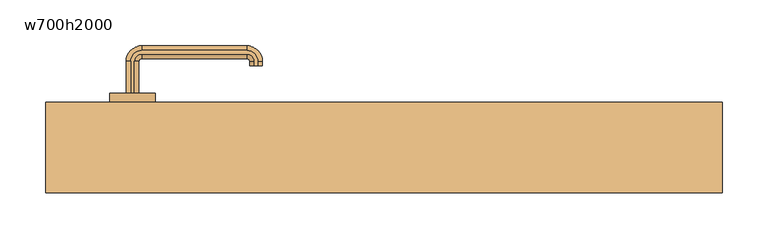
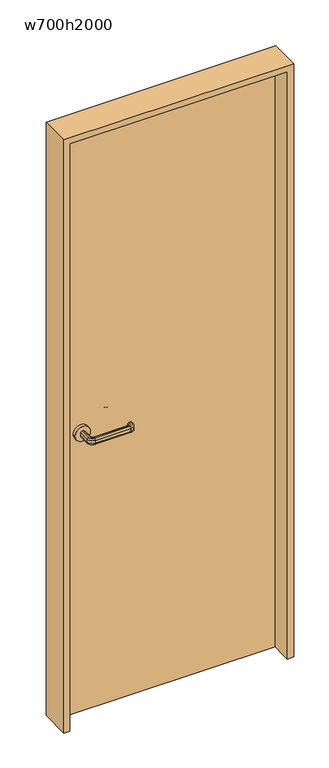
"""IFC4 building model written with IfcOpenShell, lengths in millimetres: door geometry, 片開き : w700h2000."""

from ifc_helpers import new_model, si_unit, point, frame, frame_2d, origin, origin_with_axes, place, context, project, spatial, polyline, circle_curve, ellipse_curve, trimmed, segment, composite_curve, outline, extrude, source, transform, mapped, element, save
from ifc_brep_helpers import plane_surface, cylinder_surface, revolved_surface, advanced_brep


def w700h2000_a506aba8(model_context):
    return source(origin(), model_context, "Body", "SolidModel", [
        advanced_brep(
        [(-277.0, 59.5, 960.0), (-282.0, 59.5, 955.0), (-282.0, 59.5, 945.0477623), (-277.0, 59.5, 940.0477623), (-273.0, 59.5, 940.0477623), (-268.0, 59.5, 945.0477623), (-268.0, 59.5, 955.0), (-273.0, 59.5, 960.0), (-277.0, 94.5, 960.0), (-282.0, 94.5, 955.0), (-282.0, 94.5, 945.0477623), (-277.0, 94.5, 940.0477623), (-265.0, 106.5, 940.0477623), (-150.0, 106.5, 940.0477623), (-138.0, 94.5, 940.0477623), (-138.0, 89.5, 940.0477623), (-142.0, 89.5, 940.0477623), (-142.0, 94.5, 940.0477623), (-150.0, 102.5, 940.0477623), (-265.0, 102.5, 940.0477623), (-273.0, 94.5, 940.0477623), (-268.0, 94.5, 945.0477623), (-268.0, 94.5, 955.0), (-273.0, 94.5, 960.0), (-265.0, 102.5, 960.0), (-150.0, 102.5, 960.0), (-142.0, 94.5, 960.0), (-142.0, 89.5, 960.0), (-138.0, 89.5, 960.0), (-138.0, 94.5, 960.0), (-150.0, 106.5, 960.0), (-265.0, 106.5, 960.0), (-265.0, 111.5, 955.0), (-265.0, 111.5, 945.0477623), (-265.0, 97.5, 945.0477623), (-265.0, 97.5, 955.0), (-150.0, 111.5, 955.0), (-150.0, 111.5, 945.0477623), (-150.0, 97.5, 945.0477623), (-150.0, 97.5, 955.0), (-133.0, 94.5, 955.0), (-133.0, 94.5, 945.0477623), (-147.0, 94.5, 945.0477623), (-147.0, 94.5, 955.0), (-147.0, 89.5, 955.0), (-147.0, 89.5, 945.0477623), (-133.0, 89.5, 945.0477623), (-133.0, 89.5, 955.0)],
        [
            (0, 1, circle_curve(frame((-277.0, 59.5, 955.0), z_axis=(0.0, -1.0, 0.0), x_axis=(-1.0, 0.0, 0.0)), 5.0)),
            (1, 2),
            (2, 3, circle_curve(frame((-277.0, 59.5, 945.0477623), z_axis=(0.0, -1.0, 0.0), x_axis=(-1.0, 0.0, 0.0)), 5.0)),
            (3, 4),
            (4, 5, circle_curve(frame((-273.0, 59.5, 945.0477623), z_axis=(0.0, -1.0, 0.0), x_axis=(-1.0, 0.0, 0.0)), 5.0)),
            (5, 6),
            (6, 7, circle_curve(frame((-273.0, 59.5, 955.0), z_axis=(0.0, -1.0, 0.0), x_axis=(-1.0, 0.0, 0.0)), 5.0)),
            (7, 0),
            (0, 8),
            (8, 9, circle_curve(frame((-277.0, 94.5, 955.0), z_axis=(0.0, -1.0, 0.0), x_axis=(-1.0, 0.0, 0.0)), 5.0)),
            (9, 1),
            (9, 10),
            (10, 2),
            (10, 11, circle_curve(frame((-277.0, 94.5, 945.0477623), z_axis=(0.0, -1.0, 0.0), x_axis=(-1.0, 0.0, 0.0)), 5.0)),
            (11, 3),
            (11, 12, circle_curve(frame((-265.0, 94.5, 940.0477623), z_axis=(0.0, 0.0, -1.0), x_axis=(-1.0, 0.0, 0.0)), 12.0)),
            (12, 13),
            (13, 14, circle_curve(frame((-150.0, 94.5, 940.0477623), z_axis=(0.0, 0.0, -1.0), x_axis=(0.0, 1.0, 0.0)), 12.0)),
            (14, 15),
            (15, 16),
            (16, 17),
            (17, 18, circle_curve(frame((-150.0, 94.5, 940.0477623), z_axis=(0.0, 0.0, 1.0), x_axis=(0.0, 1.0, 0.0)), 8.0)),
            (18, 19),
            (19, 20, circle_curve(frame((-265.0, 94.5, 940.0477623), z_axis=(0.0, 0.0, 1.0), x_axis=(-1.0, 0.0, 0.0)), 8.0)),
            (20, 4),
            (20, 21, circle_curve(frame((-273.0, 94.5, 945.0477623), z_axis=(0.0, -1.0, 0.0), x_axis=(-1.0, 0.0, 0.0)), 5.0)),
            (21, 5),
            (21, 22),
            (22, 6),
            (22, 23, circle_curve(frame((-273.0, 94.5, 955.0), z_axis=(0.0, -1.0, 0.0), x_axis=(-1.0, 0.0, 0.0)), 5.0)),
            (23, 7),
            (23, 24, circle_curve(frame((-265.0, 94.5, 960.0), z_axis=(0.0, 0.0, -1.0), x_axis=(-1.0, 0.0, 0.0)), 8.0)),
            (24, 25),
            (25, 26, circle_curve(frame((-150.0, 94.5, 960.0), z_axis=(0.0, 0.0, -1.0), x_axis=(0.0, 1.0, 0.0)), 8.0)),
            (26, 27),
            (27, 28),
            (28, 29),
            (29, 30, circle_curve(frame((-150.0, 94.5, 960.0), z_axis=(0.0, 0.0, 1.0), x_axis=(0.0, 1.0, 0.0)), 12.0)),
            (30, 31),
            (31, 8, circle_curve(frame((-265.0, 94.5, 960.0), z_axis=(0.0, 0.0, 1.0), x_axis=(-1.0, 0.0, 0.0)), 12.0)),
            (32, 9, circle_curve(frame((-265.0, 94.5, 955.0), z_axis=(0.0, 0.0, 1.0), x_axis=(-1.0, 0.0, 0.0)), 17.0)),
            (31, 32, circle_curve(frame((-265.0, 106.5, 955.0), z_axis=(-1.0, 0.0, 0.0), x_axis=(0.0, 1.0, 0.0)), 5.0)),
            (33, 10, circle_curve(frame((-265.0, 94.5, 945.0477623), z_axis=(0.0, 0.0, 1.0), x_axis=(-1.0, 0.0, 0.0)), 17.0)),
            (32, 33),
            (33, 12, circle_curve(frame((-265.0, 106.5, 945.0477623), z_axis=(-1.0, 0.0, 0.0), x_axis=(0.0, 1.0, 0.0)), 5.0)),
            (34, 21, circle_curve(frame((-265.0, 94.5, 945.0477623), z_axis=(0.0, 0.0, 1.0), x_axis=(-1.0, 0.0, 0.0)), 3.0)),
            (19, 34, circle_curve(frame((-265.0, 102.5, 945.0477623), z_axis=(-1.0, 0.0, 0.0), x_axis=(0.0, 1.0, 0.0)), 5.0)),
            (35, 22, circle_curve(frame((-265.0, 94.5, 955.0), z_axis=(0.0, 0.0, 1.0), x_axis=(-1.0, 0.0, 0.0)), 3.0)),
            (34, 35),
            (35, 24, circle_curve(frame((-265.0, 102.5, 955.0), z_axis=(-1.0, 0.0, 0.0), x_axis=(0.0, 1.0, 0.0)), 5.0)),
            (30, 36, circle_curve(frame((-150.0, 106.5, 955.0), z_axis=(-1.0, 0.0, 0.0), x_axis=(0.0, 1.0, 0.0)), 5.0)),
            (36, 32),
            (36, 37),
            (37, 33),
            (37, 13, circle_curve(frame((-150.0, 106.5, 945.0477623), z_axis=(-1.0, 0.0, 0.0), x_axis=(0.0, 1.0, 0.0)), 5.0)),
            (18, 38, circle_curve(frame((-150.0, 102.5, 945.0477623), z_axis=(-1.0, 0.0, 0.0), x_axis=(0.0, 1.0, 0.0)), 5.0)),
            (38, 34),
            (38, 39),
            (39, 35),
            (39, 25, circle_curve(frame((-150.0, 102.5, 955.0), z_axis=(-1.0, 0.0, 0.0), x_axis=(0.0, 1.0, 0.0)), 5.0)),
            (40, 36, circle_curve(frame((-150.0, 94.5, 955.0), z_axis=(0.0, 0.0, 1.0), x_axis=(0.0, 1.0, 0.0)), 17.0)),
            (29, 40, circle_curve(frame((-138.0, 94.5, 955.0), z_axis=(0.0, 1.0, 0.0), x_axis=(1.0, 0.0, 0.0)), 5.0)),
            (41, 37, circle_curve(frame((-150.0, 94.5, 945.0477623), z_axis=(0.0, 0.0, 1.0), x_axis=(0.0, 1.0, 0.0)), 17.0)),
            (40, 41),
            (41, 14, circle_curve(frame((-138.0, 94.5, 945.0477623), z_axis=(0.0, 1.0, 0.0), x_axis=(1.0, 0.0, 0.0)), 5.0)),
            (42, 38, circle_curve(frame((-150.0, 94.5, 945.0477623), z_axis=(0.0, 0.0, 1.0), x_axis=(0.0, 1.0, 0.0)), 3.0)),
            (17, 42, circle_curve(frame((-142.0, 94.5, 945.0477623), z_axis=(0.0, 1.0, 0.0), x_axis=(1.0, 0.0, 0.0)), 5.0)),
            (43, 39, circle_curve(frame((-150.0, 94.5, 955.0), z_axis=(0.0, 0.0, 1.0), x_axis=(0.0, 1.0, 0.0)), 3.0)),
            (42, 43),
            (43, 26, circle_curve(frame((-142.0, 94.5, 955.0), z_axis=(0.0, 1.0, 0.0), x_axis=(1.0, 0.0, 0.0)), 5.0)),
            (27, 44, circle_curve(frame((-142.0, 89.5, 955.0), z_axis=(0.0, -1.0, 0.0), x_axis=(1.0, 0.0, 0.0)), 5.0)),
            (44, 45),
            (45, 16, circle_curve(frame((-142.0, 89.5, 945.0477623), z_axis=(0.0, -1.0, 0.0), x_axis=(1.0, 0.0, 0.0)), 5.0)),
            (15, 46, circle_curve(frame((-138.0, 89.5, 945.0477623), z_axis=(0.0, -1.0, 0.0), x_axis=(1.0, 0.0, 0.0)), 5.0)),
            (46, 47),
            (47, 28, circle_curve(frame((-138.0, 89.5, 955.0), z_axis=(0.0, -1.0, 0.0), x_axis=(1.0, 0.0, 0.0)), 5.0)),
            (47, 40),
            (46, 41),
            (45, 42),
            (44, 43),
        ],
        [
            plane_surface(frame((-285.198039, 59.5, 950.0), z_axis=(0.0, -1.0, 0.0), x_axis=(0.0, 0.0, 1.0))),
            cylinder_surface(frame((-277.0, 59.5, 955.0), z_axis=(0.0, -1.0, 0.0), x_axis=(-1.0, 0.0, 0.0)), 5.0),
            plane_surface(frame((-282.0, 59.5, 955.0), z_axis=(-1.0, 0.0, 0.0), x_axis=(0.0, 1.0, 0.0))),
            cylinder_surface(frame((-277.0, 59.5, 945.0477623), z_axis=(0.0, -1.0, 0.0), x_axis=(-1.0, 0.0, 0.0)), 5.0),
            plane_surface(frame((-277.0, 59.5, 940.0477623), z_axis=(0.0, 0.0, -1.0), x_axis=(0.0, 1.0, 0.0))),
            cylinder_surface(frame((-273.0, 59.5, 945.0477623), z_axis=(0.0, -1.0, 0.0), x_axis=(-1.0, 0.0, 0.0)), 5.0),
            plane_surface(frame((-268.0, 59.5, 945.0477623), z_axis=(1.0, 0.0, 0.0), x_axis=(0.0, 1.0, 0.0))),
            cylinder_surface(frame((-273.0, 59.5, 955.0), z_axis=(0.0, -1.0, 0.0), x_axis=(-1.0, 0.0, 0.0)), 5.0),
            plane_surface(frame((-273.0, 59.5, 960.0), z_axis=(0.0, 0.0, 1.0), x_axis=(0.0, 1.0, 0.0))),
            revolved_surface(trimmed(ellipse_curve(frame((-277.0, 94.5, 955.0), z_axis=(0.0, -1.0, 0.0), x_axis=(-1.0, 0.0, 0.0)), 5.0, 5.0), [point((-277.0, 94.5, 960.0))], [point((-282.0, 94.5, 955.0))], True, "CARTESIAN"), (-265.0, 94.5, 950.0), (0.0, 0.0, -1.0)),
            cylinder_surface(frame((-265.0, 94.5, 950.0), z_axis=(0.0, 0.0, -1.0), x_axis=(-1.0, 0.0, 0.0)), 17.0),
            revolved_surface(trimmed(ellipse_curve(frame((-277.0, 94.5, 945.0477623), z_axis=(0.0, -1.0, 0.0), x_axis=(-1.0, 0.0, 0.0)), 5.0, 5.0), [point((-282.0, 94.5, 945.0477623))], [point((-277.0, 94.5, 940.0477623))], True, "CARTESIAN"), (-265.0, 94.5, 950.0), (0.0, 0.0, -1.0)),
            revolved_surface(trimmed(ellipse_curve(frame((-273.0, 94.5, 945.0477623), z_axis=(0.0, -1.0, 0.0), x_axis=(-1.0, 0.0, 0.0)), 5.0, 5.0), [point((-273.0, 94.5, 940.0477623))], [point((-268.0, 94.5, 945.0477623))], True, "CARTESIAN"), (-265.0, 94.5, 950.0), (0.0, 0.0, -1.0)),
            revolved_surface(polyline([(-268.0, 94.5, 945.0477623), (-268.0, 94.5, 955.0)]), (-265.0, 94.5, 950.0), (0.0, 0.0, -1.0)),
            revolved_surface(trimmed(ellipse_curve(frame((-273.0, 94.5, 955.0), z_axis=(0.0, -1.0, 0.0), x_axis=(-1.0, 0.0, 0.0)), 5.0, 5.0), [point((-268.0, 94.5, 955.0))], [point((-273.0, 94.5, 960.0))], True, "CARTESIAN"), (-265.0, 94.5, 950.0), (0.0, 0.0, -1.0)),
            cylinder_surface(frame((-265.0, 106.5, 955.0), z_axis=(-1.0, 0.0, 0.0), x_axis=(0.0, 1.0, 0.0)), 5.0),
            plane_surface(frame((-265.0, 111.5, 955.0), z_axis=(0.0, 1.0, 0.0), x_axis=(1.0, 0.0, 0.0))),
            cylinder_surface(frame((-265.0, 106.5, 945.0477623), z_axis=(-1.0, 0.0, 0.0), x_axis=(0.0, 1.0, 0.0)), 5.0),
            cylinder_surface(frame((-265.0, 102.5, 945.0477623), z_axis=(-1.0, 0.0, 0.0), x_axis=(0.0, 1.0, 0.0)), 5.0),
            plane_surface(frame((-265.0, 97.5, 945.0477623), z_axis=(0.0, -1.0, 0.0), x_axis=(1.0, 0.0, 0.0))),
            cylinder_surface(frame((-265.0, 102.5, 955.0), z_axis=(-1.0, 0.0, 0.0), x_axis=(0.0, 1.0, 0.0)), 5.0),
            revolved_surface(trimmed(ellipse_curve(frame((-150.0, 106.5, 955.0), z_axis=(-1.0, 0.0, 0.0), x_axis=(0.0, 1.0, 0.0)), 5.0, 5.0), [point((-150.0, 106.5, 960.0))], [point((-150.0, 111.5, 955.0))], True, "CARTESIAN"), (-150.0, 94.5, 950.0), (0.0, 0.0, -1.0)),
            cylinder_surface(frame((-150.0, 94.5, 950.0), z_axis=(0.0, 0.0, -1.0), x_axis=(0.0, 1.0, 0.0)), 17.0),
            revolved_surface(trimmed(ellipse_curve(frame((-150.0, 106.5, 945.0477623), z_axis=(-1.0, 0.0, 0.0), x_axis=(0.0, 1.0, 0.0)), 5.0, 5.0), [point((-150.0, 111.5, 945.0477623))], [point((-150.0, 106.5, 940.0477623))], True, "CARTESIAN"), (-150.0, 94.5, 950.0), (0.0, 0.0, -1.0)),
            revolved_surface(trimmed(ellipse_curve(frame((-150.0, 102.5, 945.0477623), z_axis=(-1.0, 0.0, 0.0), x_axis=(0.0, 1.0, 0.0)), 5.0, 5.0), [point((-150.0, 102.5, 940.0477623))], [point((-150.0, 97.5, 945.0477623))], True, "CARTESIAN"), (-150.0, 94.5, 950.0), (0.0, 0.0, -1.0)),
            revolved_surface(polyline([(-150.0, 97.5, 945.0477623), (-150.0, 97.5, 955.0)]), (-150.0, 94.5, 950.0), (0.0, 0.0, -1.0)),
            revolved_surface(trimmed(ellipse_curve(frame((-150.0, 102.5, 955.0), z_axis=(-1.0, 0.0, 0.0), x_axis=(0.0, 1.0, 0.0)), 5.0, 5.0), [point((-150.0, 97.5, 955.0))], [point((-150.0, 102.5, 960.0))], True, "CARTESIAN"), (-150.0, 94.5, 950.0), (0.0, 0.0, -1.0)),
            plane_surface(frame((-150.198039, 89.5, 950.0), z_axis=(0.0, -1.0, 0.0), x_axis=(0.0, 0.0, -1.0))),
            cylinder_surface(frame((-138.0, 94.5, 955.0), z_axis=(0.0, 1.0, 0.0), x_axis=(1.0, 0.0, 0.0)), 5.0),
            plane_surface(frame((-133.0, 94.5, 955.0), z_axis=(1.0, 0.0, 0.0), x_axis=(0.0, -1.0, 0.0))),
            cylinder_surface(frame((-138.0, 94.5, 945.0477623), z_axis=(0.0, 1.0, 0.0), x_axis=(1.0, 0.0, 0.0)), 5.0),
            cylinder_surface(frame((-142.0, 94.5, 945.0477623), z_axis=(0.0, 1.0, 0.0), x_axis=(1.0, 0.0, 0.0)), 5.0),
            plane_surface(frame((-147.0, 94.5, 945.0477623), z_axis=(-1.0, 0.0, 0.0), x_axis=(0.0, -1.0, 0.0))),
            cylinder_surface(frame((-142.0, 94.5, 955.0), z_axis=(0.0, 1.0, 0.0), x_axis=(1.0, 0.0, 0.0)), 5.0),
        ],
        [
            (0, [[1, 2, 3, 4, 5, 6, 7, 8]]),
            (1, [[-1, 9, 10, 11]]),
            (2, [[-2, -11, 12, 13]]),
            (3, [[-3, -13, 14, 15]]),
            (4, [[-4, -15, 16, 17, 18, 19, 20, 21, 22, 23, 24, 25]]),
            (5, [[-5, -25, 26, 27]]),
            (6, [[-6, -27, 28, 29]]),
            (7, [[-7, -29, 30, 31]]),
            (8, [[-8, -31, 32, 33, 34, 35, 36, 37, 38, 39, 40, -9]]),
            (9, [[41, -10, -40, 42]]),
            (10, [[43, -12, -41, 44]]),
            (11, [[-16, -14, -43, 45]]),
            (12, [[46, -26, -24, 47]]),
            (13, [[48, -28, -46, 49]]),
            (14, [[-32, -30, -48, 50]]),
            (15, [[-42, -39, 51, 52]]),
            (16, [[-44, -52, 53, 54]]),
            (17, [[-45, -54, 55, -17]]),
            (18, [[-47, -23, 56, 57]]),
            (19, [[-49, -57, 58, 59]]),
            (20, [[-50, -59, 60, -33]]),
            (21, [[61, -51, -38, 62]]),
            (22, [[63, -53, -61, 64]]),
            (23, [[-18, -55, -63, 65]]),
            (24, [[66, -56, -22, 67]]),
            (25, [[68, -58, -66, 69]]),
            (26, [[-34, -60, -68, 70]]),
            (27, [[-36, 71, 72, 73, -20, 74, 75, 76]]),
            (28, [[-62, -37, -76, 77]]),
            (29, [[-64, -77, -75, 78]]),
            (30, [[-65, -78, -74, -19]]),
            (31, [[-67, -21, -73, 79]]),
            (32, [[-69, -79, -72, 80]]),
            (33, [[-70, -80, -71, -35]]),
        ],
    ),
        advanced_brep(
        [(-273.0, 9.5, 940.0), (-277.0, 9.5, 940.0), (-282.0, 9.5, 945.0), (-282.0, 9.5, 955.0), (-277.0, 9.5, 960.0), (-273.0, 9.5, 960.0), (-268.0, 9.5, 955.0), (-268.0, 9.5, 945.0), (-273.0, -25.5, 940.0), (-265.0, -33.5, 940.0), (-150.0, -33.5, 940.0), (-142.0, -25.5, 940.0), (-142.0, -20.5, 940.0), (-138.0, -20.5, 940.0), (-138.0, -25.5, 940.0), (-150.0, -37.5, 940.0), (-265.0, -37.5, 940.0), (-277.0, -25.5, 940.0), (-282.0, -25.5, 945.0), (-282.0, -25.5, 955.0), (-277.0, -25.5, 960.0), (-265.0, -37.5, 960.0), (-150.0, -37.5, 960.0), (-138.0, -25.5, 960.0), (-138.0, -20.5, 960.0), (-142.0, -20.5, 960.0), (-142.0, -25.5, 960.0), (-150.0, -33.5, 960.0), (-265.0, -33.5, 960.0), (-273.0, -25.5, 960.0), (-268.0, -25.5, 955.0), (-268.0, -25.5, 945.0), (-265.0, -42.5, 945.0), (-265.0, -42.5, 955.0), (-265.0, -28.5, 955.0), (-265.0, -28.5, 945.0), (-150.0, -42.5, 945.0), (-150.0, -42.5, 955.0), (-150.0, -28.5, 955.0), (-150.0, -28.5, 945.0), (-133.0, -25.5, 945.0), (-133.0, -25.5, 955.0), (-147.0, -25.5, 955.0), (-147.0, -25.5, 945.0), (-147.0, -20.5, 945.0), (-147.0, -20.5, 955.0), (-133.0, -20.5, 955.0), (-133.0, -20.5, 945.0)],
        [
            (0, 1),
            (1, 2, circle_curve(frame((-277.0, 9.5, 945.0), z_axis=(0.0, 1.0, 0.0), x_axis=(1.0, 0.0, 0.0)), 5.0)),
            (2, 3),
            (3, 4, circle_curve(frame((-277.0, 9.5, 955.0), z_axis=(0.0, 1.0, 0.0), x_axis=(1.0, 0.0, 0.0)), 5.0)),
            (4, 5),
            (5, 6, circle_curve(frame((-273.0, 9.5, 955.0), z_axis=(0.0, 1.0, 0.0), x_axis=(1.0, 0.0, 0.0)), 5.0)),
            (6, 7),
            (7, 0, circle_curve(frame((-273.0, 9.5, 945.0), z_axis=(0.0, 1.0, 0.0), x_axis=(1.0, 0.0, 0.0)), 5.0)),
            (0, 8),
            (8, 9, circle_curve(frame((-265.0, -25.5, 940.0), z_axis=(0.0, 0.0, 1.0), x_axis=(-1.0, 0.0, 0.0)), 8.0)),
            (9, 10),
            (10, 11, circle_curve(frame((-150.0, -25.5, 940.0), z_axis=(0.0, 0.0, 1.0), x_axis=(0.0, -1.0, 0.0)), 8.0)),
            (11, 12),
            (12, 13),
            (13, 14),
            (14, 15, circle_curve(frame((-150.0, -25.5, 940.0), z_axis=(0.0, 0.0, -1.0), x_axis=(0.0, -1.0, 0.0)), 12.0)),
            (15, 16),
            (16, 17, circle_curve(frame((-265.0, -25.5, 940.0), z_axis=(0.0, 0.0, -1.0), x_axis=(-1.0, 0.0, 0.0)), 12.0)),
            (17, 1),
            (17, 18, circle_curve(frame((-277.0, -25.5, 945.0), z_axis=(0.0, 1.0, 0.0), x_axis=(1.0, 0.0, 0.0)), 5.0)),
            (18, 2),
            (18, 19),
            (19, 3),
            (19, 20, circle_curve(frame((-277.0, -25.5, 955.0), z_axis=(0.0, 1.0, 0.0), x_axis=(1.0, 0.0, 0.0)), 5.0)),
            (20, 4),
            (20, 21, circle_curve(frame((-265.0, -25.5, 960.0), z_axis=(0.0, 0.0, 1.0), x_axis=(-1.0, 0.0, 0.0)), 12.0)),
            (21, 22),
            (22, 23, circle_curve(frame((-150.0, -25.5, 960.0), z_axis=(0.0, 0.0, 1.0), x_axis=(0.0, -1.0, 0.0)), 12.0)),
            (23, 24),
            (24, 25),
            (25, 26),
            (26, 27, circle_curve(frame((-150.0, -25.5, 960.0), z_axis=(0.0, 0.0, -1.0), x_axis=(0.0, -1.0, 0.0)), 8.0)),
            (27, 28),
            (28, 29, circle_curve(frame((-265.0, -25.5, 960.0), z_axis=(0.0, 0.0, -1.0), x_axis=(-1.0, 0.0, 0.0)), 8.0)),
            (29, 5),
            (29, 30, circle_curve(frame((-273.0, -25.5, 955.0), z_axis=(0.0, 1.0, 0.0), x_axis=(1.0, 0.0, 0.0)), 5.0)),
            (30, 6),
            (30, 31),
            (31, 7),
            (31, 8, circle_curve(frame((-273.0, -25.5, 945.0), z_axis=(0.0, 1.0, 0.0), x_axis=(1.0, 0.0, 0.0)), 5.0)),
            (32, 18, circle_curve(frame((-265.0, -25.5, 945.0), z_axis=(0.0, 0.0, -1.0), x_axis=(-1.0, 0.0, 0.0)), 17.0)),
            (16, 32, circle_curve(frame((-265.0, -37.5, 945.0), z_axis=(-1.0, 0.0, 0.0), x_axis=(0.0, 1.0, 0.0)), 5.0)),
            (33, 19, circle_curve(frame((-265.0, -25.5, 955.0), z_axis=(0.0, 0.0, -1.0), x_axis=(-1.0, 0.0, 0.0)), 17.0)),
            (32, 33),
            (33, 21, circle_curve(frame((-265.0, -37.5, 955.0), z_axis=(-1.0, 0.0, 0.0), x_axis=(0.0, 1.0, 0.0)), 5.0)),
            (34, 30, circle_curve(frame((-265.0, -25.5, 955.0), z_axis=(0.0, 0.0, -1.0), x_axis=(-1.0, 0.0, 0.0)), 3.0)),
            (28, 34, circle_curve(frame((-265.0, -33.5, 955.0), z_axis=(-1.0, 0.0, 0.0), x_axis=(0.0, 1.0, 0.0)), 5.0)),
            (35, 31, circle_curve(frame((-265.0, -25.5, 945.0), z_axis=(0.0, 0.0, -1.0), x_axis=(-1.0, 0.0, 0.0)), 3.0)),
            (34, 35),
            (35, 9, circle_curve(frame((-265.0, -33.5, 945.0), z_axis=(-1.0, 0.0, 0.0), x_axis=(0.0, 1.0, 0.0)), 5.0)),
            (15, 36, circle_curve(frame((-150.0, -37.5, 945.0), z_axis=(-1.0, 0.0, 0.0), x_axis=(0.0, 1.0, 0.0)), 5.0)),
            (36, 32),
            (36, 37),
            (37, 33),
            (37, 22, circle_curve(frame((-150.0, -37.5, 955.0), z_axis=(-1.0, 0.0, 0.0), x_axis=(0.0, 1.0, 0.0)), 5.0)),
            (27, 38, circle_curve(frame((-150.0, -33.5, 955.0), z_axis=(-1.0, 0.0, 0.0), x_axis=(0.0, 1.0, 0.0)), 5.0)),
            (38, 34),
            (38, 39),
            (39, 35),
            (39, 10, circle_curve(frame((-150.0, -33.5, 945.0), z_axis=(-1.0, 0.0, 0.0), x_axis=(0.0, 1.0, 0.0)), 5.0)),
            (40, 36, circle_curve(frame((-150.0, -25.5, 945.0), z_axis=(0.0, 0.0, -1.0), x_axis=(0.0, -1.0, 0.0)), 17.0)),
            (14, 40, circle_curve(frame((-138.0, -25.5, 945.0), z_axis=(0.0, -1.0, 0.0), x_axis=(-1.0, 0.0, 0.0)), 5.0)),
            (41, 37, circle_curve(frame((-150.0, -25.5, 955.0), z_axis=(0.0, 0.0, -1.0), x_axis=(0.0, -1.0, 0.0)), 17.0)),
            (40, 41),
            (41, 23, circle_curve(frame((-138.0, -25.5, 955.0), z_axis=(0.0, -1.0, 0.0), x_axis=(-1.0, 0.0, 0.0)), 5.0)),
            (42, 38, circle_curve(frame((-150.0, -25.5, 955.0), z_axis=(0.0, 0.0, -1.0), x_axis=(0.0, -1.0, 0.0)), 3.0)),
            (26, 42, circle_curve(frame((-142.0, -25.5, 955.0), z_axis=(0.0, -1.0, 0.0), x_axis=(-1.0, 0.0, 0.0)), 5.0)),
            (43, 39, circle_curve(frame((-150.0, -25.5, 945.0), z_axis=(0.0, 0.0, -1.0), x_axis=(0.0, -1.0, 0.0)), 3.0)),
            (42, 43),
            (43, 11, circle_curve(frame((-142.0, -25.5, 945.0), z_axis=(0.0, -1.0, 0.0), x_axis=(-1.0, 0.0, 0.0)), 5.0)),
            (12, 44, circle_curve(frame((-142.0, -20.5, 945.0), z_axis=(0.0, 1.0, 0.0), x_axis=(-1.0, 0.0, 0.0)), 5.0)),
            (44, 45),
            (45, 25, circle_curve(frame((-142.0, -20.5, 955.0), z_axis=(0.0, 1.0, 0.0), x_axis=(-1.0, 0.0, 0.0)), 5.0)),
            (24, 46, circle_curve(frame((-138.0, -20.5, 955.0), z_axis=(0.0, 1.0, 0.0), x_axis=(-1.0, 0.0, 0.0)), 5.0)),
            (46, 47),
            (47, 13, circle_curve(frame((-138.0, -20.5, 945.0), z_axis=(0.0, 1.0, 0.0), x_axis=(-1.0, 0.0, 0.0)), 5.0)),
            (47, 40),
            (46, 41),
            (45, 42),
            (44, 43),
        ],
        [
            plane_surface(frame((-285.198039, 9.5, 950.0), z_axis=(0.0, 1.0, 0.0), x_axis=(0.0, 0.0, -1.0))),
            plane_surface(frame((-273.0, 9.5, 940.0), z_axis=(0.0, 0.0, -1.0), x_axis=(0.0, -1.0, 0.0))),
            cylinder_surface(frame((-277.0, 9.5, 945.0), z_axis=(0.0, 1.0, 0.0), x_axis=(1.0, 0.0, 0.0)), 5.0),
            plane_surface(frame((-282.0, 9.5, 945.0), z_axis=(-1.0, 0.0, 0.0), x_axis=(0.0, -1.0, 0.0))),
            cylinder_surface(frame((-277.0, 9.5, 955.0), z_axis=(0.0, 1.0, 0.0), x_axis=(1.0, 0.0, 0.0)), 5.0),
            plane_surface(frame((-277.0, 9.5, 960.0), z_axis=(0.0, 0.0, 1.0), x_axis=(0.0, -1.0, 0.0))),
            cylinder_surface(frame((-273.0, 9.5, 955.0), z_axis=(0.0, 1.0, 0.0), x_axis=(1.0, 0.0, 0.0)), 5.0),
            plane_surface(frame((-268.0, 9.5, 955.0), z_axis=(1.0, 0.0, 0.0), x_axis=(0.0, -1.0, 0.0))),
            cylinder_surface(frame((-273.0, 9.5, 945.0), z_axis=(0.0, 1.0, 0.0), x_axis=(1.0, 0.0, 0.0)), 5.0),
            revolved_surface(trimmed(ellipse_curve(frame((-277.0, -25.5, 945.0), z_axis=(0.0, 1.0, 0.0), x_axis=(1.0, 0.0, 0.0)), 5.0, 5.0), [point((-277.0, -25.5, 940.0))], [point((-282.0, -25.5, 945.0))], True, "CARTESIAN"), (-265.0, -25.5, 950.0), (0.0, 0.0, 1.0)),
            cylinder_surface(frame((-265.0, -25.5, 950.0), z_axis=(0.0, 0.0, 1.0), x_axis=(-1.0, 0.0, 0.0)), 17.0),
            revolved_surface(trimmed(ellipse_curve(frame((-277.0, -25.5, 955.0), z_axis=(0.0, 1.0, 0.0), x_axis=(1.0, 0.0, 0.0)), 5.0, 5.0), [point((-282.0, -25.5, 955.0))], [point((-277.0, -25.5, 960.0))], True, "CARTESIAN"), (-265.0, -25.5, 950.0), (0.0, 0.0, 1.0)),
            revolved_surface(trimmed(ellipse_curve(frame((-273.0, -25.5, 955.0), z_axis=(0.0, 1.0, 0.0), x_axis=(1.0, 0.0, 0.0)), 5.0, 5.0), [point((-273.0, -25.5, 960.0))], [point((-268.0, -25.5, 955.0))], True, "CARTESIAN"), (-265.0, -25.5, 950.0), (0.0, 0.0, 1.0)),
            revolved_surface(polyline([(-268.0, -25.5, 955.0), (-268.0, -25.5, 945.0)]), (-265.0, -25.5, 950.0), (0.0, 0.0, 1.0)),
            revolved_surface(trimmed(ellipse_curve(frame((-273.0, -25.5, 945.0), z_axis=(0.0, 1.0, 0.0), x_axis=(1.0, 0.0, 0.0)), 5.0, 5.0), [point((-268.0, -25.5, 945.0))], [point((-273.0, -25.5, 940.0))], True, "CARTESIAN"), (-265.0, -25.5, 950.0), (0.0, 0.0, 1.0)),
            cylinder_surface(frame((-265.0, -37.5, 945.0), z_axis=(-1.0, 0.0, 0.0), x_axis=(0.0, 1.0, 0.0)), 5.0),
            plane_surface(frame((-265.0, -42.5, 945.0), z_axis=(0.0, -1.0, 0.0), x_axis=(1.0, 0.0, 0.0))),
            cylinder_surface(frame((-265.0, -37.5, 955.0), z_axis=(-1.0, 0.0, 0.0), x_axis=(0.0, 1.0, 0.0)), 5.0),
            cylinder_surface(frame((-265.0, -33.5, 955.0), z_axis=(-1.0, 0.0, 0.0), x_axis=(0.0, 1.0, 0.0)), 5.0),
            plane_surface(frame((-265.0, -28.5, 955.0), z_axis=(0.0, 1.0, 0.0), x_axis=(1.0, 0.0, 0.0))),
            cylinder_surface(frame((-265.0, -33.5, 945.0), z_axis=(-1.0, 0.0, 0.0), x_axis=(0.0, 1.0, 0.0)), 5.0),
            revolved_surface(trimmed(ellipse_curve(frame((-150.0, -37.5, 945.0), z_axis=(-1.0, 0.0, 0.0), x_axis=(0.0, 1.0, 0.0)), 5.0, 5.0), [point((-150.0, -37.5, 940.0))], [point((-150.0, -42.5, 945.0))], True, "CARTESIAN"), (-150.0, -25.5, 950.0), (0.0, 0.0, 1.0)),
            cylinder_surface(frame((-150.0, -25.5, 950.0), z_axis=(0.0, 0.0, 1.0), x_axis=(0.0, -1.0, 0.0)), 17.0),
            revolved_surface(trimmed(ellipse_curve(frame((-150.0, -37.5, 955.0), z_axis=(-1.0, 0.0, 0.0), x_axis=(0.0, 1.0, 0.0)), 5.0, 5.0), [point((-150.0, -42.5, 955.0))], [point((-150.0, -37.5, 960.0))], True, "CARTESIAN"), (-150.0, -25.5, 950.0), (0.0, 0.0, 1.0)),
            revolved_surface(trimmed(ellipse_curve(frame((-150.0, -33.5, 955.0), z_axis=(-1.0, 0.0, 0.0), x_axis=(0.0, 1.0, 0.0)), 5.0, 5.0), [point((-150.0, -33.5, 960.0))], [point((-150.0, -28.5, 955.0))], True, "CARTESIAN"), (-150.0, -25.5, 950.0), (0.0, 0.0, 1.0)),
            revolved_surface(polyline([(-150.0, -28.5, 955.0), (-150.0, -28.5, 945.0)]), (-150.0, -25.5, 950.0), (0.0, 0.0, 1.0)),
            revolved_surface(trimmed(ellipse_curve(frame((-150.0, -33.5, 945.0), z_axis=(-1.0, 0.0, 0.0), x_axis=(0.0, 1.0, 0.0)), 5.0, 5.0), [point((-150.0, -28.5, 945.0))], [point((-150.0, -33.5, 940.0))], True, "CARTESIAN"), (-150.0, -25.5, 950.0), (0.0, 0.0, 1.0)),
            plane_surface(frame((-150.198039, -20.5, 950.0), z_axis=(0.0, 1.0, 0.0), x_axis=(0.0, 0.0, 1.0))),
            cylinder_surface(frame((-138.0, -25.5, 945.0), z_axis=(0.0, -1.0, 0.0), x_axis=(-1.0, 0.0, 0.0)), 5.0),
            plane_surface(frame((-133.0, -25.5, 945.0), z_axis=(1.0, 0.0, 0.0), x_axis=(0.0, 1.0, 0.0))),
            cylinder_surface(frame((-138.0, -25.5, 955.0), z_axis=(0.0, -1.0, 0.0), x_axis=(-1.0, 0.0, 0.0)), 5.0),
            cylinder_surface(frame((-142.0, -25.5, 955.0), z_axis=(0.0, -1.0, 0.0), x_axis=(-1.0, 0.0, 0.0)), 5.0),
            plane_surface(frame((-147.0, -25.5, 955.0), z_axis=(-1.0, 0.0, 0.0), x_axis=(0.0, 1.0, 0.0))),
            cylinder_surface(frame((-142.0, -25.5, 945.0), z_axis=(0.0, -1.0, 0.0), x_axis=(-1.0, 0.0, 0.0)), 5.0),
        ],
        [
            (0, [[1, 2, 3, 4, 5, 6, 7, 8]]),
            (1, [[-1, 9, 10, 11, 12, 13, 14, 15, 16, 17, 18, 19]]),
            (2, [[-2, -19, 20, 21]]),
            (3, [[-3, -21, 22, 23]]),
            (4, [[-4, -23, 24, 25]]),
            (5, [[-5, -25, 26, 27, 28, 29, 30, 31, 32, 33, 34, 35]]),
            (6, [[-6, -35, 36, 37]]),
            (7, [[-7, -37, 38, 39]]),
            (8, [[-8, -39, 40, -9]]),
            (9, [[41, -20, -18, 42]]),
            (10, [[43, -22, -41, 44]]),
            (11, [[-26, -24, -43, 45]]),
            (12, [[46, -36, -34, 47]]),
            (13, [[48, -38, -46, 49]]),
            (14, [[-10, -40, -48, 50]]),
            (15, [[-42, -17, 51, 52]]),
            (16, [[-44, -52, 53, 54]]),
            (17, [[-45, -54, 55, -27]]),
            (18, [[-47, -33, 56, 57]]),
            (19, [[-49, -57, 58, 59]]),
            (20, [[-50, -59, 60, -11]]),
            (21, [[61, -51, -16, 62]]),
            (22, [[63, -53, -61, 64]]),
            (23, [[-28, -55, -63, 65]]),
            (24, [[66, -56, -32, 67]]),
            (25, [[68, -58, -66, 69]]),
            (26, [[-12, -60, -68, 70]]),
            (27, [[71, 72, 73, -30, 74, 75, 76, -14]]),
            (28, [[-62, -15, -76, 77]]),
            (29, [[-64, -77, -75, 78]]),
            (30, [[-65, -78, -74, -29]]),
            (31, [[-67, -31, -73, 79]]),
            (32, [[-69, -79, -72, 80]]),
            (33, [[-70, -80, -71, -13]]),
        ],
    ),
        extrude(outline(composite_curve([segment(trimmed(circle_curve(frame_2d((950.0, -275.0)), 25.0), [point((950.0, -300.0))], [point((950.0, -250.0))], False, "CARTESIAN"), True, "CONTINUOUS"), segment(trimmed(circle_curve(frame_2d((950.0, -275.0)), 25.0), [point((950.0, -250.0))], [point((950.0, -300.0))], False, "CARTESIAN"), True, "CONTINUOUS")], self_intersect=False)), frame((0.0, 49.5, 0.0), z_axis=(0.0, 1.0, 0.0), x_axis=(0.0, 0.0, 1.0)), (0.0, 0.0, 1.0), 10.0),
        extrude(outline(composite_curve([segment(trimmed(circle_curve(frame_2d((950.0, -275.0)), 25.0), [point((950.0, -300.0))], [point((950.0, -250.0))], False, "CARTESIAN"), True, "CONTINUOUS"), segment(trimmed(circle_curve(frame_2d((950.0, -275.0)), 25.0), [point((950.0, -250.0))], [point((950.0, -300.0))], False, "CARTESIAN"), True, "CONTINUOUS")], self_intersect=False)), frame((0.0, 9.5, 0.0), z_axis=(0.0, 1.0, 0.0), x_axis=(0.0, 0.0, 1.0)), (0.0, 0.0, 1.0), 10.0),
        extrude(outline(polyline([(2020.0, -370.0), (0.0, -370.0), (0.0, -350.0), (2000.0, -350.0), (2000.0, 350.0), (0.0, 350.0), (0.0, 370.0), (2020.0, 370.0), (2020.0, -370.0)])), frame((0.0, -49.5, 0.0), z_axis=(0.0, 1.0, 0.0), x_axis=(0.0, 0.0, 1.0)), (0.0, 0.0, 1.0), 99.0),
        extrude(outline(polyline([(350.0, 19.5), (-350.0, 19.5), (-350.0, 49.5), (350.0, 49.5), (350.0, 19.5)])), origin_with_axes(), (0.0, 0.0, 1.0), 2000.0),
    ])


if __name__ == "__main__":
    model = new_model("IFC4")
    model_context = context("Model", 3, world=origin())
    ifc_project = project(units=[si_unit("LENGTHUNIT", "METRE", prefix="MILLI")], contexts=[model_context])
    site = spatial("IfcSite", under=ifc_project)
    building = spatial("IfcBuilding", under=site)
    placement = place(None, origin())
    w700h2000_shape = w700h2000_a506aba8(model_context)
    element("IfcDoor", 1, ObjectType="片開き : w700h2000", at=placement, inside=building, context=model_context, shape_type="MappedRepresentation", body=[
        mapped(w700h2000_shape, transform((0.0, 0.0, 0.0), x_axis=(1.0, 0.0, 0.0), y_axis=(0.0, 1.0, 0.0), z_axis=(0.0, 0.0, 1.0))),
    ])
    save(model, "model.ifc")
